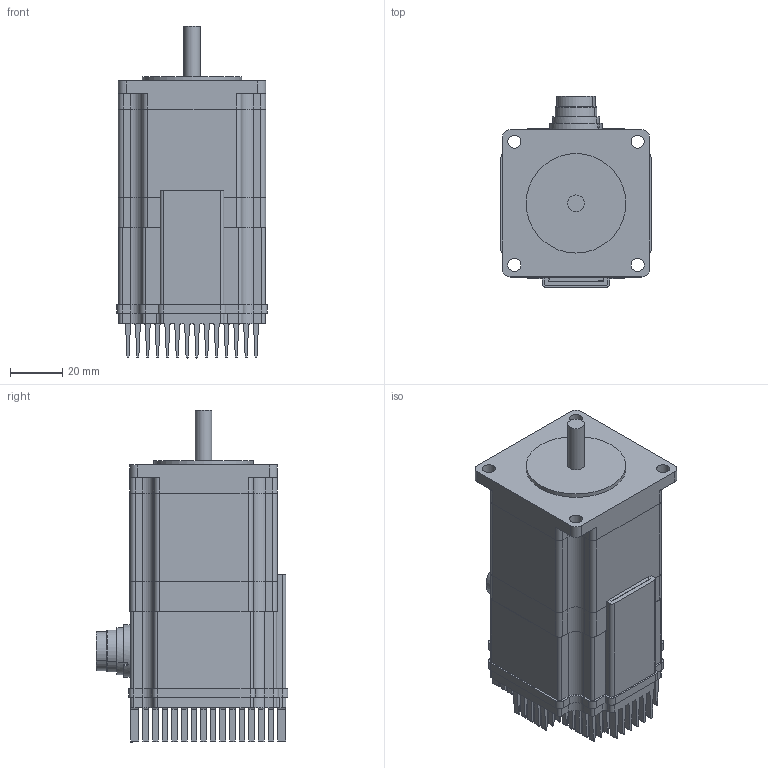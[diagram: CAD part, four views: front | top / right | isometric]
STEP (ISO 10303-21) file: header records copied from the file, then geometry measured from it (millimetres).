
FILE_DESCRIPTION(/* description */ ('Alibre Inc.'),/* implementation_level */ '2;1');
FILE_NAME(/* name */ 'export0',/* time_stamp */ '2016-06-17T08:20:34-07:00',/* author */ (''),/* organization */ (''),/* preprocessor_version */ 'ST-DEVELOPER v14',/* originating_system */ 'Alibre',/* authorisation */ '');
FILE_SCHEMA (('AUTOMOTIVE_DESIGN'));
Length unit declared in the file: centimetre
Products named in the file (13): ID_1
Bounding box: 57.4 x 73.42 x 127.04 mm (x, y, z)
Volume: 199870.2 mm3; surface area: 76588.6 mm2
Topology: 14 solids, 14 shells, 1934 faces, 4989 edges, 3301 vertices
Faces by surface type: plane 1059, cylinder 826, cone 24, sphere 21, torus 4
Full cylindrical faces by diameter (mm): 0.483 x2, 2.156 x2, 2.459 x8, 2.54 x2, 2.616 x4, 2.705 x2, 3 x4, 3.175 x6, 3.556 x2, 4.089 x4, 5 x4, 6.35 x2, 38.1 x1
Entity records: 45428 total; most frequent: ORIENTED_EDGE 9332, CARTESIAN_POINT 7303, DIRECTION 6215, EDGE_CURVE 4666, VERTEX_POINT 3137, AXIS2_PLACEMENT_3D 2419, EDGE_LOOP 2177, FACE_BOUND 2177
